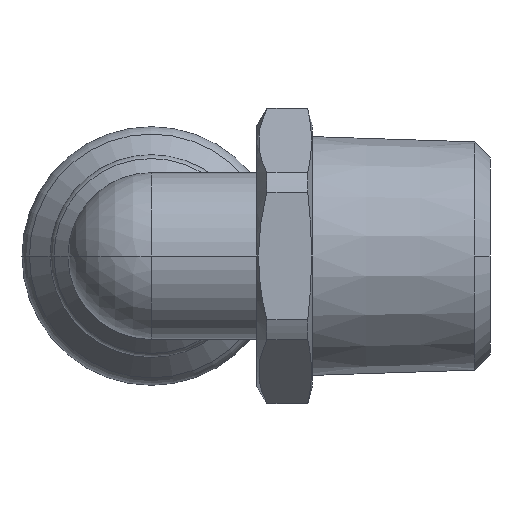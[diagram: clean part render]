
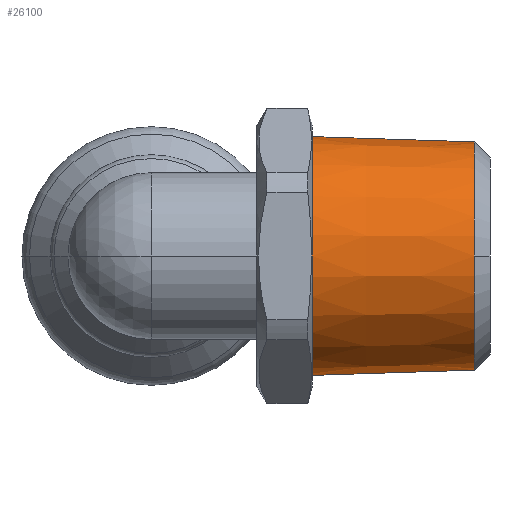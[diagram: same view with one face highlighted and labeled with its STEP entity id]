
A CAD part, front view. The second image highlights one B-rep face of the part: STEP entity #26100.
In plain terms, the highlighted conical face has half-angle 1.853 degrees and reference radius 10.75 mm.
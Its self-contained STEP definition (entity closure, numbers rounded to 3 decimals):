
#25500=CARTESIAN_POINT('',(-81.693,18.409,
0.));
#25510=DIRECTION('',(-1.,0.,0.));
#25520=DIRECTION('',(0.,-0.866,0.5));
#25530=AXIS2_PLACEMENT_3D('',#25500,#25510,#25520);
#25540=CIRCLE('',#25530,10.75);
#25550=CARTESIAN_POINT('',(-81.693,18.409,-10.75));
#25560=VERTEX_POINT('',#25550);
#25570=CARTESIAN_POINT('',(-81.693,18.409,10.75));
#25580=VERTEX_POINT('',#25570);
#25590=EDGE_CURVE('',#25560,#25580,#25540,.T.);
#25750=CARTESIAN_POINT('',(-81.693,18.409,
0.));
#25760=DIRECTION('',(-1.,0.,0.));
#25770=DIRECTION('',(0.,0.,1.));
#25780=AXIS2_PLACEMENT_3D('',#25750,#25760,#25770);
#25790=CONICAL_SURFACE('',#25780,10.75,0.032);
#25800=CARTESIAN_POINT('',(-67.092,18.409,
0.));
#25810=DIRECTION('',(-1.,0.,0.));
#25820=DIRECTION('',(0.,0.,-1.));
#25830=AXIS2_PLACEMENT_3D('',#25800,#25810,#25820);
#25840=CIRCLE('',#25830,10.278);
#25850=CARTESIAN_POINT('',(-67.092,18.409,
-10.278));
#25860=VERTEX_POINT('',#25850);
#25870=CARTESIAN_POINT('',(-67.092,8.131,
0.));
#25880=VERTEX_POINT('',#25870);
#25890=EDGE_CURVE('',#25860,#25880,#25840,.T.);
#25900=ORIENTED_EDGE('',*,*,#25890,.T.);
#25910=CARTESIAN_POINT('',(-81.693,18.409,-10.75));
#25920=DIRECTION('',(-0.999,0.,
-0.032));
#25930=VECTOR('',#25920,1.);
#25940=LINE('',#25910,#25930);
#25950=EDGE_CURVE('',#25860,#25560,#25940,.T.);
#25960=ORIENTED_EDGE('',*,*,#25950,.F.);
#25970=ORIENTED_EDGE('',*,*,#25590,.F.);
#25980=CARTESIAN_POINT('',(-81.693,18.409,10.75));
#25990=DIRECTION('',(-0.999,0.,0.032));
#26000=VECTOR('',#25990,1.);
#26010=LINE('',#25980,#26000);
#26020=CARTESIAN_POINT('',(-67.092,18.409,
10.278));
#26030=VERTEX_POINT('',#26020);
#26040=EDGE_CURVE('',#26030,#25580,#26010,.T.);
#26050=ORIENTED_EDGE('',*,*,#26040,.T.);
#26060=EDGE_CURVE('',#25880,#26030,#25840,.T.);
#26070=ORIENTED_EDGE('',*,*,#26060,.T.);
#26080=EDGE_LOOP('',(#26070,#26050,#25970,#25960,#25900));
#26090=FACE_OUTER_BOUND('',#26080,.T.);
#26100=ADVANCED_FACE('',(#26090),#25790,.T.);
